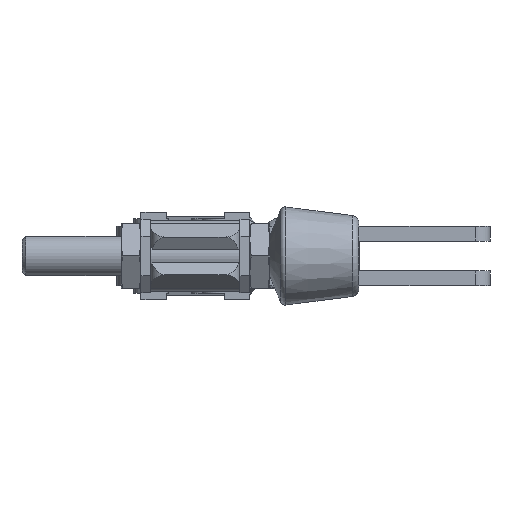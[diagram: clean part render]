
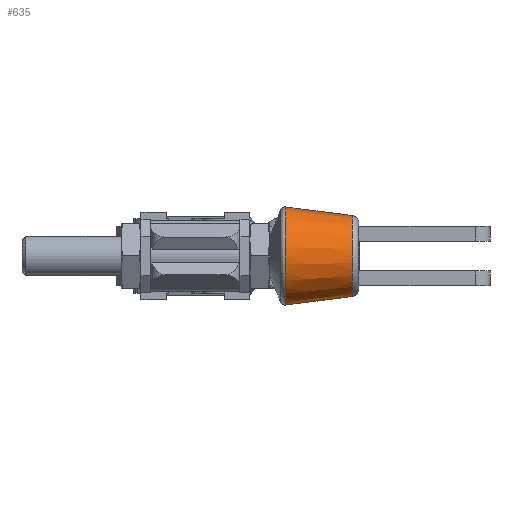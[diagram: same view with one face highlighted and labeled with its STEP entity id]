
A CAD part, left-side view. The second image highlights one B-rep face of the part: STEP entity #635.
In plain terms, the highlighted conical face has half-angle 7.353 degrees and reference radius 9.902 mm.
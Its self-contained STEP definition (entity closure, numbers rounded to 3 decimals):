
#635 = ADVANCED_FACE( '', ( #1262, #1263 ), #1264, .T. );
#1262 = FACE_BOUND( '', #2080, .T. );
#1263 = FACE_OUTER_BOUND( '', #2081, .T. );
#1264 = CONICAL_SURFACE( '', #2082, 9.902, 0.128 );
#2080 = EDGE_LOOP( '', ( #4218 ) );
#2081 = EDGE_LOOP( '', ( #4219 ) );
#2082 = AXIS2_PLACEMENT_3D( '', #4220, #4221, #4222 );
#4218 = ORIENTED_EDGE( '', *, *, #4913, .F. );
#4219 = ORIENTED_EDGE( '', *, *, #4915, .T. );
#4220 = CARTESIAN_POINT( '', ( 0., 14.743, 0. ) );
#4221 = DIRECTION( '', ( 0., 1., 0. ) );
#4222 = DIRECTION( '', ( 0., 0., 1. ) );
#4913 = EDGE_CURVE( '', #6038, #6038, #6039, .T. );
#4915 = EDGE_CURVE( '', #6042, #6042, #6043, .T. );
#6038 = VERTEX_POINT( '', #7783 );
#6039 = CIRCLE( '', #7784, 8.169 );
#6042 = VERTEX_POINT( '', #7787 );
#6043 = CIRCLE( '', #7788, 9.902 );
#7783 = CARTESIAN_POINT( '', ( 0., 1.308, -8.169 ) );
#7784 = AXIS2_PLACEMENT_3D( '', #8902, #8903, #8904 );
#7787 = CARTESIAN_POINT( '', ( 0., 14.743, -9.902 ) );
#7788 = AXIS2_PLACEMENT_3D( '', #8908, #8909, #8910 );
#8902 = CARTESIAN_POINT( '', ( 0., 1.308, 0. ) );
#8903 = DIRECTION( '', ( 0., -1., 0. ) );
#8904 = DIRECTION( '', ( 0., 0., -1. ) );
#8908 = CARTESIAN_POINT( '', ( 0., 14.743, 0. ) );
#8909 = DIRECTION( '', ( 0., -1., 0. ) );
#8910 = DIRECTION( '', ( 0., 0., -1. ) );
